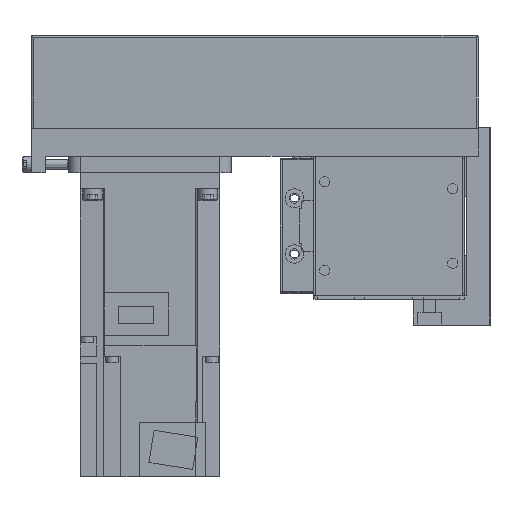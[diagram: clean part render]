
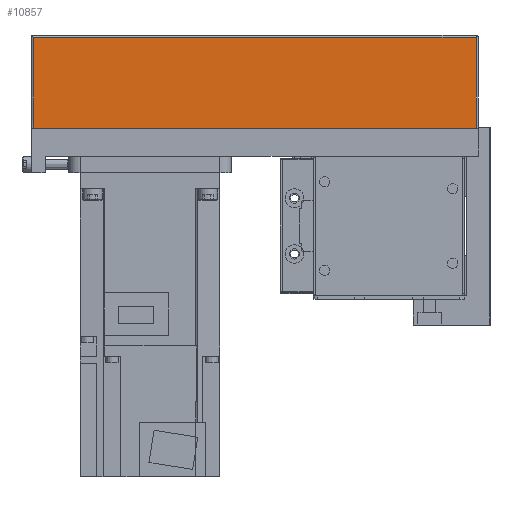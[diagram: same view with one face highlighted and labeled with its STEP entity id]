
A CAD part, left-side view. The second image highlights one B-rep face of the part: STEP entity #10857.
In plain terms, the highlighted planar face has unit normal (-1, 0, 0) as drawn and (1, 0, 0) by its records, which use the part's own axes.
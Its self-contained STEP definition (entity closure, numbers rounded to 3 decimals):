
#2530=ORIENTED_EDGE('',*,*,#4599,.T.);
#2531=ORIENTED_EDGE('',*,*,#4600,.T.);
#2532=ORIENTED_EDGE('',*,*,#4601,.F.);
#2533=ORIENTED_EDGE('',*,*,#4602,.F.);
#4599=EDGE_CURVE('',#5822,#5823,#6862,.T.);
#4600=EDGE_CURVE('',#5823,#5824,#6863,.T.);
#4601=EDGE_CURVE('',#5825,#5824,#6864,.T.);
#4602=EDGE_CURVE('',#5822,#5825,#6865,.T.);
#5822=VERTEX_POINT('',#17423);
#5823=VERTEX_POINT('',#17424);
#5824=VERTEX_POINT('',#17426);
#5825=VERTEX_POINT('',#17428);
#6862=LINE('',#17422,#7910);
#6863=LINE('',#17425,#7911);
#6864=LINE('',#17427,#7912);
#6865=LINE('',#17429,#7913);
#7910=VECTOR('',#14237,1000.);
#7911=VECTOR('',#14238,1000.);
#7912=VECTOR('',#14239,1000.);
#7913=VECTOR('',#14240,1000.);
#8905=EDGE_LOOP('',(#2530,#2531,#2532,#2533));
#9779=FACE_BOUND('',#8905,.T.);
#10327=PLANE('',#11845);
#10857=ADVANCED_FACE('',(#9779),#10327,.T.);
#11845=AXIS2_PLACEMENT_3D('',#17421,#14235,#14236);
#14235=DIRECTION('',(1.,0.,0.));
#14236=DIRECTION('',(0.,0.,-1.));
#14237=DIRECTION('',(0.,0.,1.));
#14238=DIRECTION('',(0.,-1.,0.));
#14239=DIRECTION('',(0.,0.,1.));
#14240=DIRECTION('',(0.,-1.,0.));
#17421=CARTESIAN_POINT('',(40.,-41.,-52.));
#17422=CARTESIAN_POINT('',(40.,150.,-64.));
#17423=CARTESIAN_POINT('',(40.,150.,-51.));
#17424=CARTESIAN_POINT('',(40.,150.,-12.01));
#17425=CARTESIAN_POINT('',(40.,-41.,-12.01));
#17426=CARTESIAN_POINT('',(40.,-40.,-12.01));
#17427=CARTESIAN_POINT('',(40.,-40.,-64.));
#17428=CARTESIAN_POINT('',(40.,-40.,-51.));
#17429=CARTESIAN_POINT('',(40.,200.,-51.));
